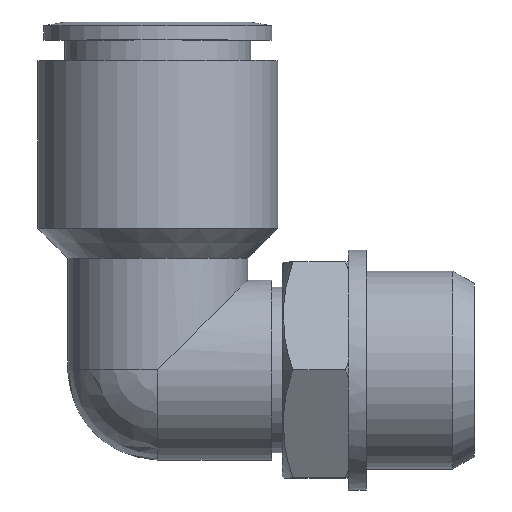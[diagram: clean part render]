
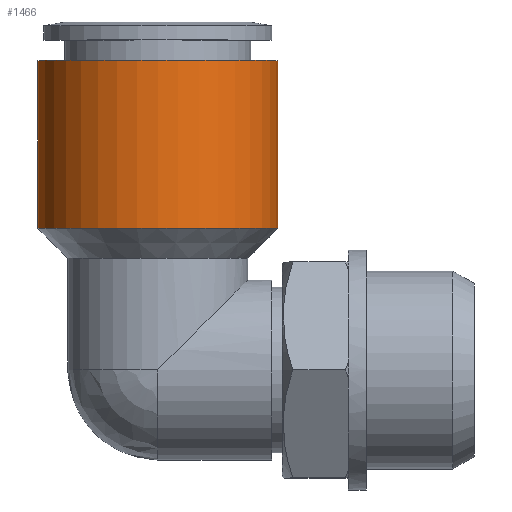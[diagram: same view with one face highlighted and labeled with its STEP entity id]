
A CAD part, top view. The second image highlights one B-rep face of the part: STEP entity #1466.
In plain terms, the highlighted cylindrical face has radius 10 mm (diameter 20 mm), a full revolution.
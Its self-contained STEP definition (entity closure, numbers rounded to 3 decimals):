
#1432=CARTESIAN_POINT('',(-10.0,11.8,0.0));
#1433=VERTEX_POINT('',#1432);
#1434=CARTESIAN_POINT('',(0.0,11.8,0.0));
#1435=DIRECTION('',(0.0,1.0,0.0));
#1436=DIRECTION('',(-1.0,0.0,0.0));
#1437=AXIS2_PLACEMENT_3D('',#1434,#1435,#1436);
#1438=CIRCLE('',#1437,10.0);
#1439=EDGE_CURVE('',#1433,#1433,#1438,.T.);
#1447=CARTESIAN_POINT('',(0.0,18.8,0.0));
#1448=DIRECTION('',(0.0,1.0,0.0));
#1449=DIRECTION('',(-1.0,0.0,0.0));
#1450=AXIS2_PLACEMENT_3D('',#1447,#1448,#1449);
#1451=CYLINDRICAL_SURFACE('',#1450,10.0);
#1452=CARTESIAN_POINT('',(-10.0,25.8,0.0));
#1453=VERTEX_POINT('',#1452);
#1454=CARTESIAN_POINT('',(0.0,25.8,0.0));
#1455=DIRECTION('',(0.0,1.0,0.0));
#1456=DIRECTION('',(-1.0,0.0,0.0));
#1457=AXIS2_PLACEMENT_3D('',#1454,#1455,#1456);
#1458=CIRCLE('',#1457,10.0);
#1459=EDGE_CURVE('',#1453,#1453,#1458,.T.);
#1460=ORIENTED_EDGE('',*,*,#1459,.F.);
#1461=EDGE_LOOP('',(#1460));
#1462=FACE_OUTER_BOUND('',#1461,.T.);
#1463=ORIENTED_EDGE('',*,*,#1439,.T.);
#1464=EDGE_LOOP('',(#1463));
#1465=FACE_BOUND('',#1464,.T.);
#1466=ADVANCED_FACE('',(#1462,#1465),#1451,.T.);
